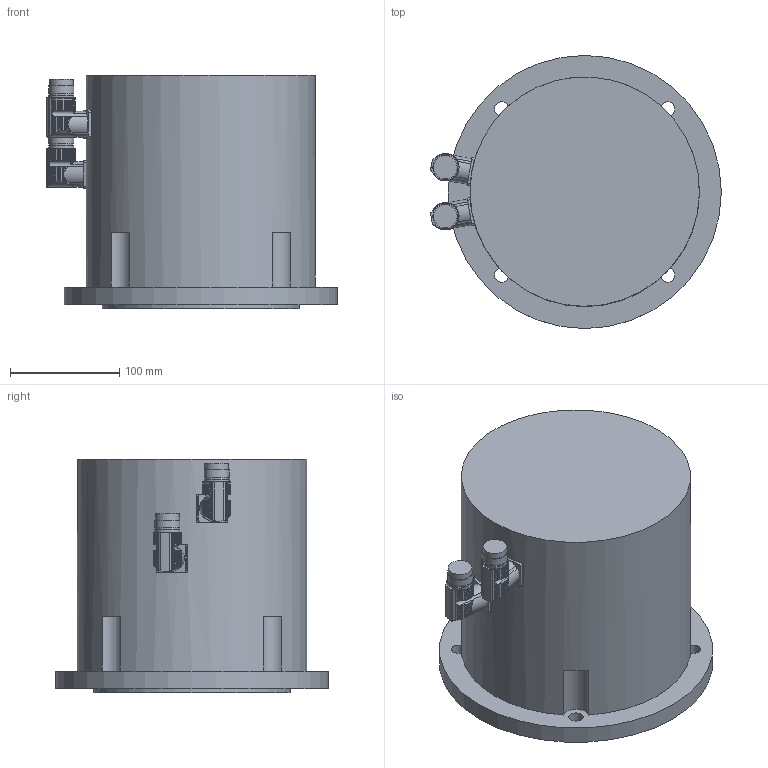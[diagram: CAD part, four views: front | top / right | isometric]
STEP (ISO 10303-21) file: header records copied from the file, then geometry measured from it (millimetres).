
FILE_DESCRIPTION(/* description */ (''),/* implementation_level */ '2;1');
FILE_NAME(/* name */ 'MH4161-Ux-Nxxx-Gxx-M0-P5',/* time_stamp */ '2008-09-01T09:51:05+02:00',/* author */ (''),/* organization */ (''),/* preprocessor_version */ 'ST-DEVELOPER v8',/* originating_system */ 'UNIGRAPHICS SOLUTIONS - UNIGRAPHICS 18.0',/* authorisation */ '');
FILE_SCHEMA (('AUTOMOTIVE_DESIGN { 1 2 10303 214 0 1 1 1 }'));
Length unit declared in the file: millimetre
Products named in the file (2): Winkelflanschdose_0; MH4161_Ux_Nxxx_Gxx_M0_P5_0
Assembly tree (2 placements, depth 2):
  MH4161_Ux_Nxxx_Gxx_M0_P5_0
    Winkelflanschdose_0  x2
Bounding box: 265.96 x 250 x 214 mm (x, y, z)
Volume: 7485559.1 mm3; surface area: 270808.3 mm2
Topology: 3 solids, 3 shells, 388 faces, 1079 edges, 719 vertices
Faces by surface type: cylinder 316, plane 60, cone 11, torus 1
Full cylindrical faces by diameter (mm): 6.985 x11, 8 x1, 13 x4, 16 x2, 20 x2, 21 x2, 21.5 x2, 23 x4, 50 x1, 100 x1, 160 x1, 180 x1, 210 x1, 250 x1
Entity records: 7212 total; most frequent: CARTESIAN_POINT 1785, ORIENTED_EDGE 1092, DIRECTION 1090, EDGE_CURVE 546, AXIS2_PLACEMENT_3D 457, VERTEX_POINT 394, EDGE_LOOP 289, CIRCLE 228
